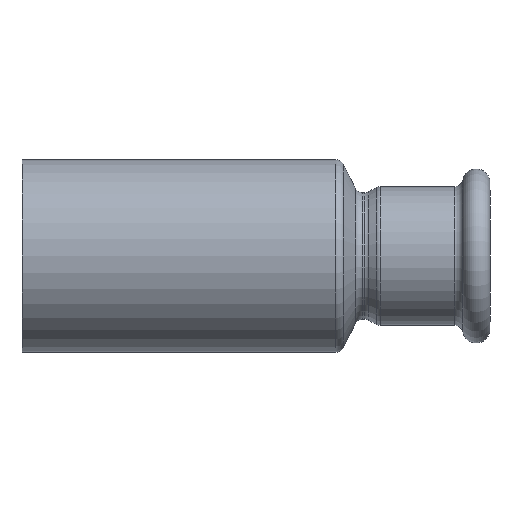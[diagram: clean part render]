
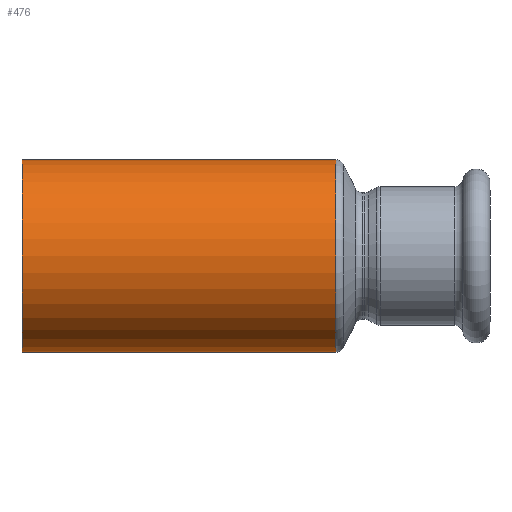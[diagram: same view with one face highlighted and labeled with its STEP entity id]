
A CAD part, front view. The second image highlights one B-rep face of the part: STEP entity #476.
In plain terms, the highlighted cylindrical face has radius 17.5 mm (diameter 35 mm), a partial arc.
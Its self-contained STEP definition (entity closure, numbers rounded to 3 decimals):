
#6 = FACE_OUTER_BOUND ( 'NONE', #896, .T. ) ;
#42 = VERTEX_POINT ( 'NONE', #373 ) ;
#70 = CYLINDRICAL_SURFACE ( 'NONE', #878, 17.5 ) ;
#91 = CARTESIAN_POINT ( 'NONE',  ( -53.513, 0., -17.5 ) ) ;
#138 = ORIENTED_EDGE ( 'NONE', *, *, #1134, .T. ) ;
#164 = VERTEX_POINT ( 'NONE', #1093 ) ;
#168 = CARTESIAN_POINT ( 'NONE',  ( 17.512, 0., 17.5 ) ) ;
#187 = DIRECTION ( 'NONE',  ( -1., 0., 0. ) ) ;
#198 = DIRECTION ( 'NONE',  ( 0., 0., 1. ) ) ;
#199 = CARTESIAN_POINT ( 'NONE',  ( -53.513, 0., 0. ) ) ;
#221 = VERTEX_POINT ( 'NONE', #168 ) ;
#250 = DIRECTION ( 'NONE',  ( 0., 0., 1. ) ) ;
#286 = AXIS2_PLACEMENT_3D ( 'NONE', #338, #423, #250 ) ;
#294 = VECTOR ( 'NONE', #187, 1000. ) ;
#338 = CARTESIAN_POINT ( 'NONE',  ( -39.488, 0., 0. ) ) ;
#373 = CARTESIAN_POINT ( 'NONE',  ( 17.512, 0., -17.5 ) ) ;
#390 = CARTESIAN_POINT ( 'NONE',  ( -39.488, 0., -17.5 ) ) ;
#418 = LINE ( 'NONE', #622, #443 ) ;
#423 = DIRECTION ( 'NONE',  ( -1., 0., 0. ) ) ;
#443 = VECTOR ( 'NONE', #973, 1000. ) ;
#476 = ADVANCED_FACE ( 'NONE', ( #6 ), #70, .T. ) ;
#622 = CARTESIAN_POINT ( 'NONE',  ( -53.513, 0., 17.5 ) ) ;
#660 = LINE ( 'NONE', #91, #294 ) ;
#665 = CARTESIAN_POINT ( 'NONE',  ( 17.512, 0., 0. ) ) ;
#670 = EDGE_CURVE ( 'NONE', #1172, #164, #1033, .T. ) ;
#671 = EDGE_CURVE ( 'NONE', #221, #164, #418, .T. ) ;
#844 = AXIS2_PLACEMENT_3D ( 'NONE', #665, #1141, #1026 ) ;
#878 = AXIS2_PLACEMENT_3D ( 'NONE', #199, #1049, #198 ) ;
#880 = CIRCLE ( 'NONE', #844, 17.5 ) ;
#896 = EDGE_LOOP ( 'NONE', ( #1010, #138, #942, #911 ) ) ;
#911 = ORIENTED_EDGE ( 'NONE', *, *, #670, .F. ) ;
#942 = ORIENTED_EDGE ( 'NONE', *, *, #671, .T. ) ;
#973 = DIRECTION ( 'NONE',  ( -1., 0., 0. ) ) ;
#1010 = ORIENTED_EDGE ( 'NONE', *, *, #1216, .F. ) ;
#1026 = DIRECTION ( 'NONE',  ( 0., 0., -1. ) ) ;
#1033 = CIRCLE ( 'NONE', #286, 17.5 ) ;
#1049 = DIRECTION ( 'NONE',  ( -1., 0., 0. ) ) ;
#1093 = CARTESIAN_POINT ( 'NONE',  ( -39.488, 0., 17.5 ) ) ;
#1134 = EDGE_CURVE ( 'NONE', #42, #221, #880, .T. ) ;
#1141 = DIRECTION ( 'NONE',  ( -1., 0., 0. ) ) ;
#1172 = VERTEX_POINT ( 'NONE', #390 ) ;
#1216 = EDGE_CURVE ( 'NONE', #42, #1172, #660, .T. ) ;
